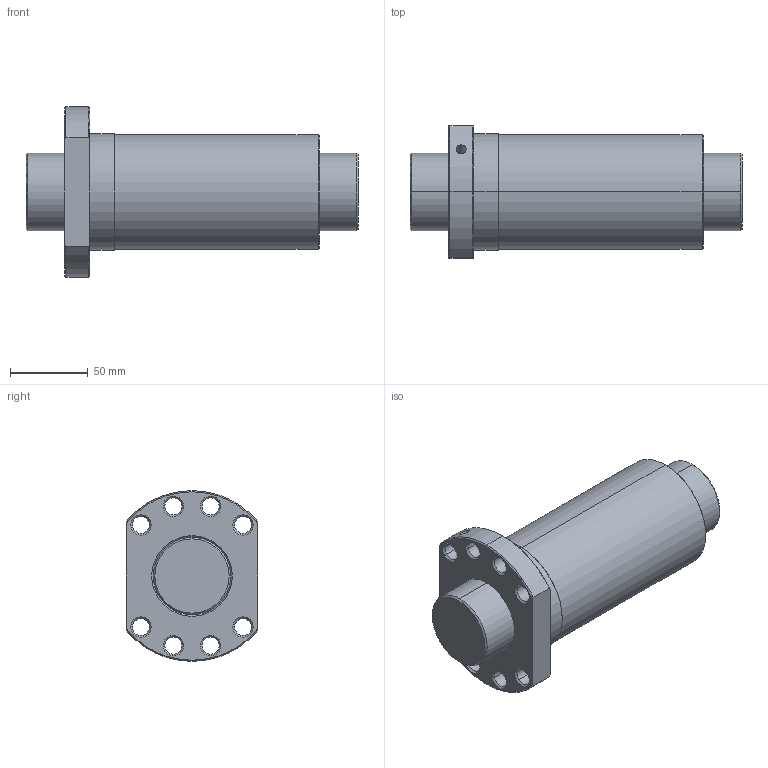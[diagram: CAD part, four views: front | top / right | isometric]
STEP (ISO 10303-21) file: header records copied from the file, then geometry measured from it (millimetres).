
FILE_DESCRIPTION(('no description'),'unknown implementation level');
FILE_NAME('R50_10T4_DDB_214_214_0_023_63.stp',' ',('HIWIN GmbH'),('CADClick - KiM GmbH - www.kimweb.de'),'unknown preprocess','ACIS','unknown authorization');
FILE_SCHEMA(('CONFIG_CONTROL_DESIGN'));
Length unit declared in the file: millimetre
Products named in the file (2): 1; 2
Bounding box: 214 x 85 x 110 mm (x, y, z)
Volume: 855917.4 mm3; surface area: 118078.2 mm2
Topology: 2 solids, 2 shells, 90 faces, 204 edges, 119 vertices
Faces by surface type: cone 52, cylinder 30, plane 8
Entity records: 2677 total; most frequent: CARTESIAN_POINT 496, DIRECTION 484, ORIENTED_EDGE 404, EDGE_CURVE 202, AXIS2_PLACEMENT_3D 200, VERTEX_POINT 119, EDGE_LOOP 111, CIRCLE 108
